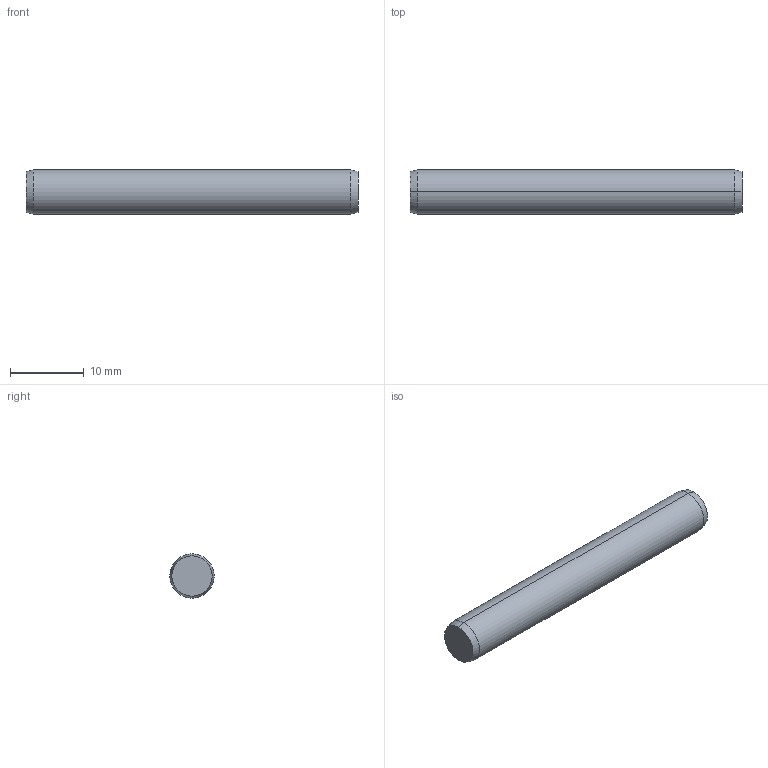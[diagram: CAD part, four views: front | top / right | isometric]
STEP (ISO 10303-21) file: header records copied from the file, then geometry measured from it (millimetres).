
FILE_DESCRIPTION (( 'STEP AP203' ), '1' );
FILE_NAME ('P1206.060-045.step', '2017-06-14T08:22:45', ( 'User' ), ( '' ), 'SwSTEP 2.0', 'SolidWorks 2009', '' );
FILE_SCHEMA (( 'CONFIG_CONTROL_DESIGN' ));
Length unit declared in the file: millimetre
Products named in the file (1): P1206.060-045
Bounding box: 45 x 6 x 6 mm (x, y, z)
Volume: 1267.4 mm3; surface area: 894.7 mm2
Topology: 1 solids, 1 shells, 8 faces, 14 edges, 8 vertices
Faces by surface type: cone 4, cylinder 2, plane 2
Entity records: 271 total; most frequent: DIRECTION 40, CARTESIAN_POINT 31, ORIENTED_EDGE 28, AXIS2_PLACEMENT_3D 17, EDGE_CURVE 14, FACE_OUTER_BOUND 8, CIRCLE 8, ADVANCED_FACE 8
